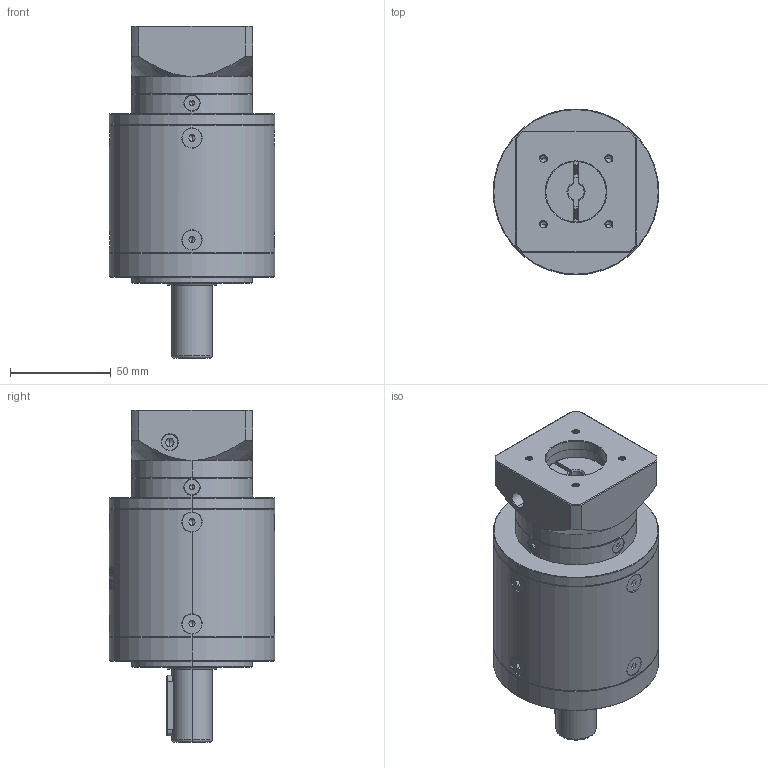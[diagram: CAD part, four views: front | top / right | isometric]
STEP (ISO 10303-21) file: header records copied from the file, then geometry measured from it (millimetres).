
FILE_DESCRIPTION (( 'STEP AP214' ), '1' );
FILE_NAME ('ZE080-D20-L3-P2-8-30-46-M4.step', '2023-08-25T11:14:37', ( '' ), ( '' ), 'SwSTEP 2.0', 'SolidWorks 2016', '' );
FILE_SCHEMA (( 'AUTOMOTIVE_DESIGN' ));
Length unit declared in the file: millimetre
Products named in the file (1): ZE080-D20-L3-P2-8-30-46-M4
Bounding box: 82 x 82 x 164.5 mm (x, y, z)
Volume: 554162.8 mm3; surface area: 69009.8 mm2
Topology: 18 solids, 18 shells, 2223 faces, 5870 edges, 3743 vertices
Faces by surface type: plane 1110, bspline 394, cylinder 371, cone 306, torus 42
Entity records: 115274 total; most frequent: CARTESIAN_POINT 40667, ORIENTED_EDGE 11648, DIRECTION 8722, EDGE_CURVE 5824, VERTEX_POINT 3743, VECTOR 3098, LINE 3098, AXIS2_PLACEMENT_3D 2812
